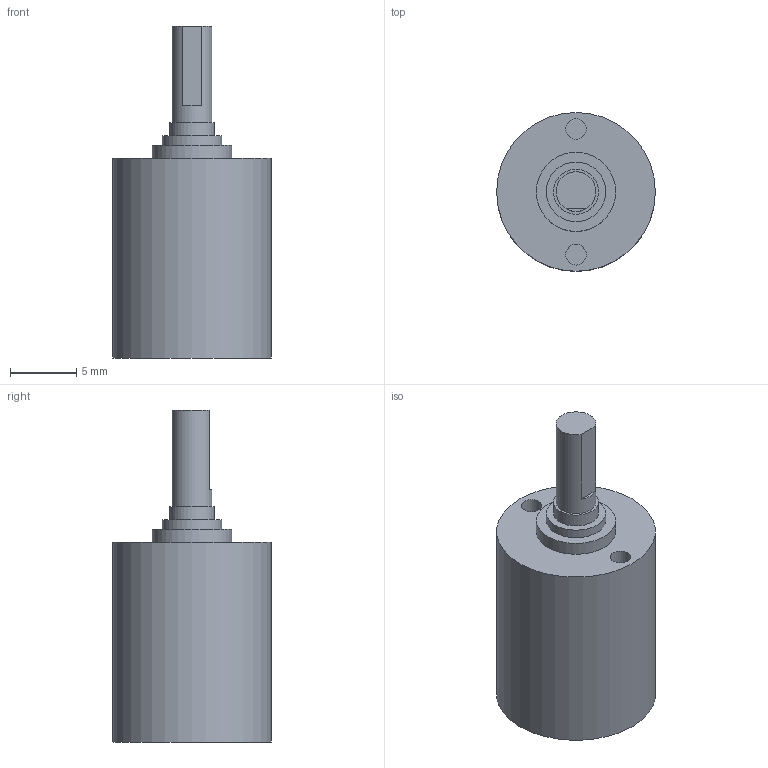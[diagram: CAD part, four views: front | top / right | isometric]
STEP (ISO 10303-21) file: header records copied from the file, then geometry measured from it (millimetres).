
FILE_DESCRIPTION((''),'2;1');
FILE_NAME('G:\Disegni\Progetti\D8500÷D8599\D8514\Riduttori\E - Riduttori STEP - SBZ\12_4 STEP\12_4 1stage.stp','2012-05-24T15:47:24',('bonazzoli'),(''),'Autodesk Inventor 2012','Autodesk Inventor 2012','');
FILE_SCHEMA(('AUTOMOTIVE_DESIGN { 1 0 10303 214 1 1 1 1 }'));
Length unit declared in the file: millimetre
Products named in the file (1): 12_4 1stage
Bounding box: 12 x 12 x 25.1 mm (x, y, z)
Volume: 1798.9 mm3; surface area: 922.9 mm2
Topology: 1 solids, 1 shells, 17 faces, 27 edges, 18 vertices
Faces by surface type: plane 10, cylinder 7
Full cylindrical faces by diameter (mm): 1.567 x2, 3 x1, 3.4 x1, 4.5 x1, 6 x1, 12 x1
Entity records: 378 total; most frequent: DIRECTION 70, CARTESIAN_POINT 54, ORIENTED_EDGE 38, AXIS2_PLACEMENT_3D 33, EDGE_LOOP 30, EDGE_CURVE 19, VERTEX_POINT 17, FACE_OUTER_BOUND 17
